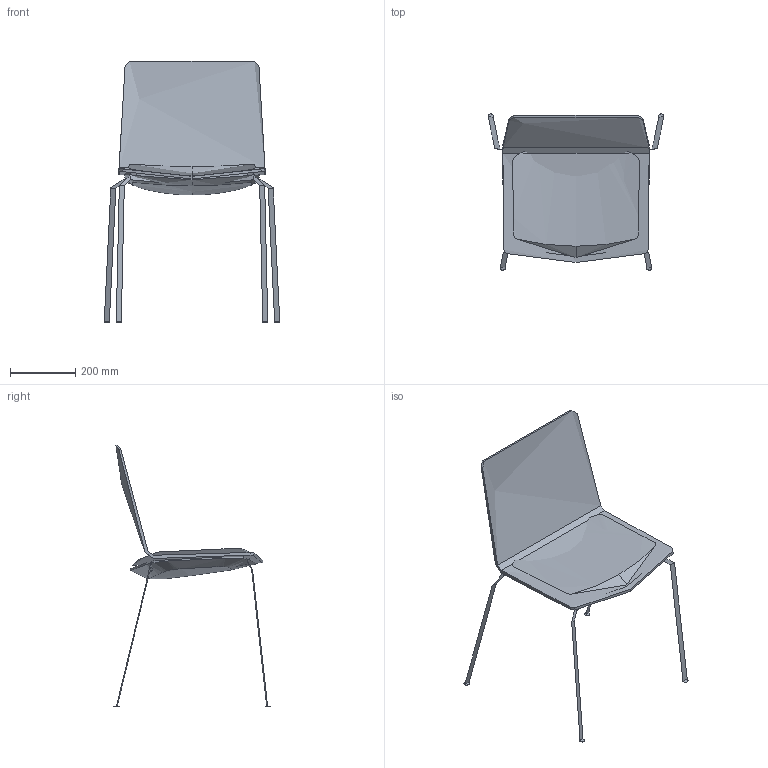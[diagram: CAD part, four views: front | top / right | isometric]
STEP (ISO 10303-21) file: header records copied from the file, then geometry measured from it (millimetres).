
FILE_DESCRIPTION(/* description */ (''),/* implementation_level */ '2;1');
FILE_NAME(/* name */ 'SKYFRE~4',/* time_stamp */ '2016-02-19T12:56:40+01:00',/* author */ (''),/* organization */ (''),/* preprocessor_version */ 'ST-DEVELOPER v15',/* originating_system */ '',/* authorisation */ '');
FILE_SCHEMA (('CONFIG_CONTROL_DESIGN'));
Length unit declared in the file: millimetre
Products named in the file (1): Document
Bounding box: 540.02 x 481.26 x 803.23 mm (x, y, z)
Volume: 3092149.8 mm3; surface area: 1217395.5 mm2
Topology: 5 solids, 17 shells, 112 faces, 259 edges, 164 vertices
Faces by surface type: bspline 94, plane 18
Entity records: 9524 total; most frequent: CARTESIAN_POINT 7978, ORIENTED_EDGE 464, EDGE_CURVE 256, VERTEX_POINT 164, ADVANCED_FACE 112, FACE_OUTER_BOUND 112, EDGE_LOOP 112, B_SPLINE_CURVE_WITH_KNOTS 102
